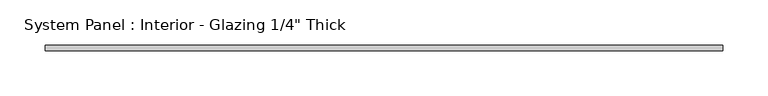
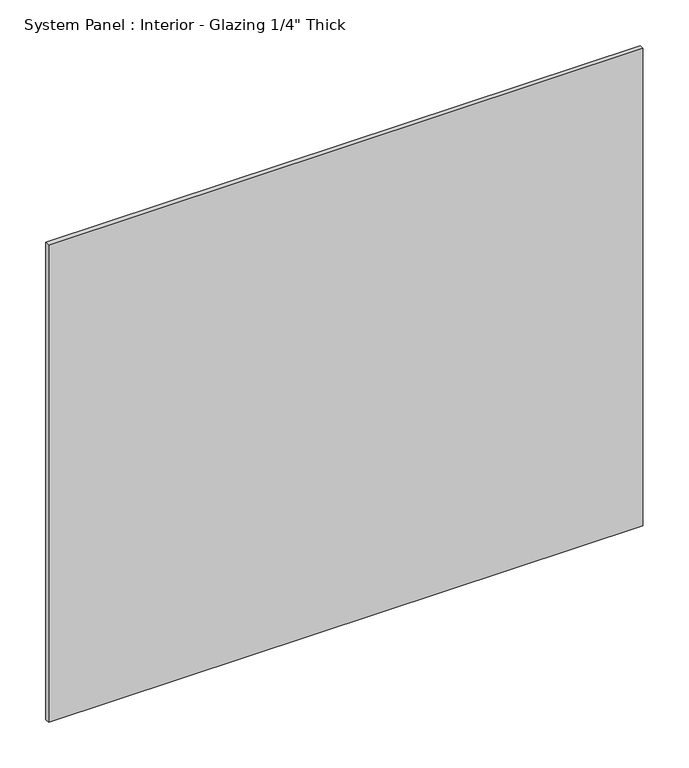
"""IFC4 building model written with IfcOpenShell, lengths in millimetres: plate geometry."""

from ifc_helpers import new_model, si_unit, origin, origin_with_axes, place, context, project, spatial, polyline, outline, extrude, source, transform, mapped, element, save


def plate_c77cbb9d(model_context):
    return source(origin(), model_context, "Body", "SweptSolid", [
        extrude(outline(polyline([(376.1493109, -3.175), (-376.1493109, -3.175), (-376.1493109, 3.175), (376.1493109, 3.175), (376.1493109, -3.175)])), origin_with_axes(), (0.0, 0.0, 1.0), 638.3411435),
    ])


if __name__ == "__main__":
    model = new_model("IFC4")
    model_context = context("Model", 3, world=origin())
    ifc_project = project(units=[si_unit("LENGTHUNIT", "METRE", prefix="MILLI")], contexts=[model_context])
    site = spatial("IfcSite", under=ifc_project)
    building = spatial("IfcBuilding", under=site)
    placement = place(None, origin())
    plate_shape = plate_c77cbb9d(model_context)
    element("IfcPlate", 1, ObjectType="System Panel : Interior - Glazing 1/4\" Thick", at=placement, inside=building, context=model_context, shape_type="MappedRepresentation", body=[
        mapped(plate_shape, transform((0.0, 0.0, 0.0), x_axis=(1.0, 0.0, 0.0), y_axis=(0.0, 1.0, 0.0), z_axis=(0.0, 0.0, 1.0))),
    ])
    save(model, "model.ifc")
